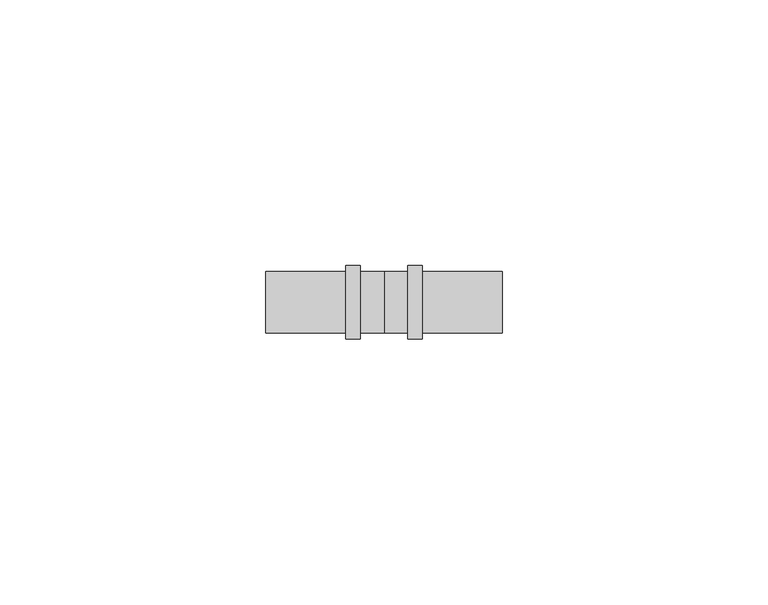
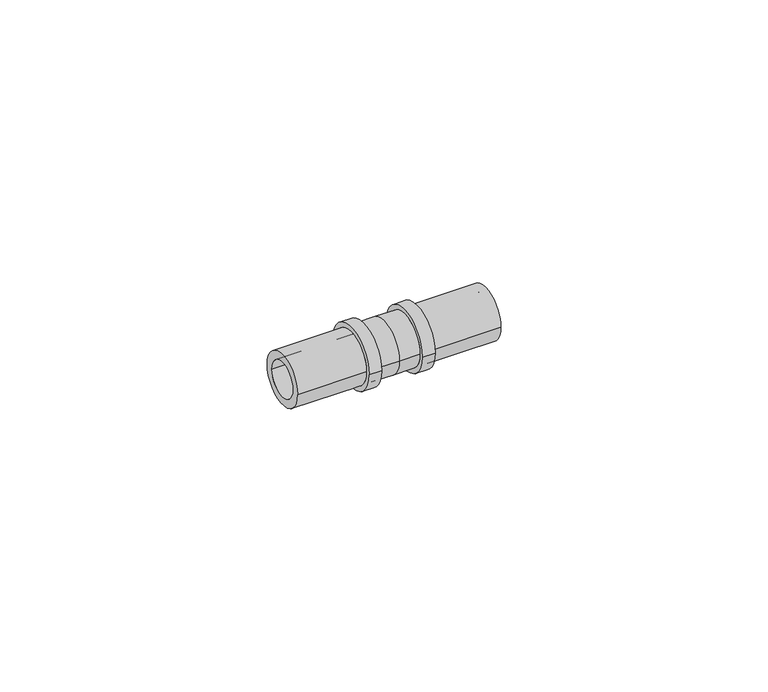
"""IFC4 building model written with IfcOpenShell, lengths in millimetres: pipe fitting geometry, FASTLOC_Coupling equal LX : FSL C LX PL."""

from ifc_helpers import new_model, si_unit, frame, origin, place, context, project, spatial, polyline, circle_curve, source, transform, mapped, element, save
from ifc_brep_helpers import plane_surface, cylinder_surface, revolved_surface, advanced_brep


def pipe_fitting_82e31f29(model_context):
    return source(origin(), model_context, "Body", "AdvancedBrep", [
        advanced_brep(
        [(7.2, 6.9, 0.0), (7.2, -6.9, 0.0), (4.5, -6.9, 0.0), (4.5, 6.9, 0.0), (22.2, 5.8, 0.0), (22.2, -5.8, 0.0), (7.2, -5.8, 0.0), (7.2, 5.8, 0.0), (-22.2, 3.95, 0.0), (-22.2, -3.95, 0.0), (22.2, -3.95, 0.0), (22.2, 3.95, 0.0), (-7.2, 5.8, 0.0), (-7.2, -5.8, 0.0), (-22.2, -5.8, 0.0), (-22.2, 5.8, 0.0), (-4.5, 6.9, 0.0), (-4.5, -6.9, 0.0), (-7.2, -6.9, 0.0), (-7.2, 6.9, 0.0), (0.0, 5.8, 0.0), (0.0, -5.8, 0.0), (-4.5, -5.8, 0.0), (-4.5, 5.8, 0.0), (4.5, 5.8, 0.0), (4.5, -5.8, 0.0)],
        [
            (0, 1, circle_curve(frame((7.2, 0.0, 0.0), z_axis=(-1.0, 0.0, 0.0), x_axis=(0.0, -1.0, 0.0)), 6.9)),
            (1, 2),
            (2, 3, circle_curve(frame((4.5, 0.0, 0.0), z_axis=(1.0, 0.0, 0.0), x_axis=(0.0, -1.0, 0.0)), 6.9)),
            (3, 0),
            (4, 5, circle_curve(frame((22.2, 0.0, 0.0), z_axis=(-1.0, 0.0, 0.0), x_axis=(0.0, -1.0, 0.0)), 5.8)),
            (5, 6),
            (6, 7, circle_curve(frame((7.2, 0.0, 0.0), z_axis=(1.0, 0.0, 0.0), x_axis=(0.0, -1.0, 0.0)), 5.8)),
            (7, 4),
            (8, 9, circle_curve(frame((-22.2, 0.0, 0.0), z_axis=(-1.0, 0.0, 0.0), x_axis=(0.0, -1.0, 0.0)), 3.95)),
            (9, 10),
            (10, 11, circle_curve(frame((22.2, 0.0, 0.0), z_axis=(1.0, 0.0, 0.0), x_axis=(0.0, -1.0, 0.0)), 3.95)),
            (11, 8),
            (12, 13, circle_curve(frame((-7.2, 0.0, 0.0), z_axis=(-1.0, 0.0, 0.0), x_axis=(0.0, -1.0, 0.0)), 5.8)),
            (13, 14),
            (14, 15, circle_curve(frame((-22.2, 0.0, 0.0), z_axis=(1.0, 0.0, 0.0), x_axis=(0.0, -1.0, 0.0)), 5.8)),
            (15, 12),
            (16, 17, circle_curve(frame((-4.5, 0.0, 0.0), z_axis=(-1.0, 0.0, 0.0), x_axis=(0.0, -1.0, 0.0)), 6.9)),
            (17, 18),
            (18, 19, circle_curve(frame((-7.2, 0.0, 0.0), z_axis=(1.0, 0.0, 0.0), x_axis=(0.0, -1.0, 0.0)), 6.9)),
            (19, 16),
            (20, 21, circle_curve(frame((0.0, 0.0, 0.0), z_axis=(-1.0, 0.0, 0.0), x_axis=(0.0, -1.0, 0.0)), 5.8)),
            (21, 22),
            (22, 23, circle_curve(frame((-4.5, 0.0, 0.0), z_axis=(1.0, 0.0, 0.0), x_axis=(0.0, -1.0, 0.0)), 5.8)),
            (23, 20),
            (24, 25, circle_curve(frame((4.5, 0.0, 0.0), z_axis=(-1.0, 0.0, 0.0), x_axis=(0.0, -1.0, 0.0)), 5.8)),
            (25, 21),
            (20, 24),
            (1, 0, circle_curve(frame((7.2, 0.0, 0.0), z_axis=(-1.0, 0.0, 0.0), x_axis=(0.0, 1.0, 0.0)), 6.9)),
            (3, 2, circle_curve(frame((4.5, 0.0, 0.0), z_axis=(1.0, 0.0, 0.0), x_axis=(0.0, 1.0, 0.0)), 6.9)),
            (6, 7, circle_curve(frame((7.2, 0.0, 0.0), z_axis=(-1.0, 0.0, 0.0), x_axis=(0.0, 1.0, 0.0)), 5.8)),
            (5, 4, circle_curve(frame((22.2, 0.0, 0.0), z_axis=(-1.0, 0.0, 0.0), x_axis=(0.0, 1.0, 0.0)), 5.8)),
            (10, 11, circle_curve(frame((22.2, 0.0, 0.0), z_axis=(-1.0, 0.0, 0.0), x_axis=(0.0, 1.0, 0.0)), 3.95)),
            (9, 8, circle_curve(frame((-22.2, 0.0, 0.0), z_axis=(-1.0, 0.0, 0.0), x_axis=(0.0, 1.0, 0.0)), 3.95)),
            (14, 15, circle_curve(frame((-22.2, 0.0, 0.0), z_axis=(-1.0, 0.0, 0.0), x_axis=(0.0, 1.0, 0.0)), 5.8)),
            (13, 12, circle_curve(frame((-7.2, 0.0, 0.0), z_axis=(-1.0, 0.0, 0.0), x_axis=(0.0, 1.0, 0.0)), 5.8)),
            (18, 19, circle_curve(frame((-7.2, 0.0, 0.0), z_axis=(-1.0, 0.0, 0.0), x_axis=(0.0, 1.0, 0.0)), 6.9)),
            (17, 16, circle_curve(frame((-4.5, 0.0, 0.0), z_axis=(-1.0, 0.0, 0.0), x_axis=(0.0, 1.0, 0.0)), 6.9)),
            (22, 23, circle_curve(frame((-4.5, 0.0, 0.0), z_axis=(-1.0, 0.0, 0.0), x_axis=(0.0, 1.0, 0.0)), 5.8)),
            (21, 20, circle_curve(frame((0.0, 0.0, 0.0), z_axis=(-1.0, 0.0, 0.0), x_axis=(0.0, 1.0, 0.0)), 5.8)),
            (25, 24, circle_curve(frame((4.5, 0.0, 0.0), z_axis=(-1.0, 0.0, 0.0), x_axis=(0.0, 1.0, 0.0)), 5.8)),
        ],
        [
            cylinder_surface(frame((0.0, 0.0, 0.0), z_axis=(1.0, 0.0, 0.0), x_axis=(0.0, -1.0, 0.0)), 6.9),
            cylinder_surface(frame((0.0, 0.0, 0.0), z_axis=(1.0, 0.0, 0.0), x_axis=(0.0, -1.0, 0.0)), 5.8),
            revolved_surface(polyline([(22.2, -3.95, 0.0), (-22.2, -3.95, 0.0)]), (0.0, 0.0, 0.0), (1.0, 0.0, 0.0)),
            cylinder_surface(frame((0.0, 0.0, 0.0), z_axis=(1.0, 0.0, 0.0), x_axis=(0.0, 1.0, 0.0)), 6.9),
            plane_surface(frame((7.2, 0.0, 0.0), z_axis=(1.0, 0.0, 0.0), x_axis=(0.0, 1.0, 0.0))),
            cylinder_surface(frame((0.0, 0.0, 0.0), z_axis=(1.0, 0.0, 0.0), x_axis=(0.0, 1.0, 0.0)), 5.8),
            plane_surface(frame((22.2, 0.0, 0.0), z_axis=(1.0, 0.0, 0.0), x_axis=(0.0, 1.0, 0.0))),
            revolved_surface(polyline([(22.2, 3.95, 0.0), (-22.2, 3.95, 0.0)]), (0.0, 0.0, 0.0), (1.0, 0.0, 0.0)),
            plane_surface(frame((-22.2, 0.0, 0.0), z_axis=(-1.0, 0.0, 0.0), x_axis=(0.0, 1.0, 0.0))),
            plane_surface(frame((-7.2, 0.0, 0.0), z_axis=(-1.0, 0.0, 0.0), x_axis=(0.0, 1.0, 0.0))),
            plane_surface(frame((-4.5, 0.0, 0.0), z_axis=(1.0, 0.0, 0.0), x_axis=(0.0, 1.0, 0.0))),
            plane_surface(frame((4.5, 0.0, 0.0), z_axis=(-1.0, 0.0, 0.0), x_axis=(0.0, 1.0, 0.0))),
        ],
        [
            (0, [[1, 2, 3, 4]]),
            (1, [[5, 6, 7, 8]]),
            (2, [[9, 10, 11, 12]]),
            (1, [[13, 14, 15, 16]]),
            (0, [[17, 18, 19, 20]]),
            (1, [[21, 22, 23, 24]]),
            (1, [[25, 26, -21, 27]]),
            (3, [[28, -4, 29, -2]]),
            (4, [[-28, -1], [30, -7]]),
            (5, [[31, -8, -30, -6]]),
            (6, [[-31, -5], [32, -11]]),
            (7, [[33, -12, -32, -10]]),
            (8, [[34, -15], [-33, -9]]),
            (5, [[35, -16, -34, -14]]),
            (9, [[36, -19], [-35, -13]]),
            (3, [[37, -20, -36, -18]]),
            (10, [[-37, -17], [38, -23]]),
            (5, [[39, -24, -38, -22]]),
            (5, [[40, -27, -39, -26]]),
            (11, [[-29, -3], [-40, -25]]),
        ],
    ),
    ])


if __name__ == "__main__":
    model = new_model("IFC4")
    model_context = context("Model", 3, world=origin())
    ifc_project = project(units=[si_unit("LENGTHUNIT", "METRE", prefix="MILLI")], contexts=[model_context])
    site = spatial("IfcSite", under=ifc_project)
    building = spatial("IfcBuilding", under=site)
    placement = place(None, origin())
    pipe_fitting_shape = pipe_fitting_82e31f29(model_context)
    element("IfcPipeFitting", 1, ObjectType="FASTLOC_Coupling equal LX : FSL C LX PL", at=placement, inside=building, context=model_context, shape_type="MappedRepresentation", body=[
        mapped(pipe_fitting_shape, transform((0.0, 0.0, 0.0), x_axis=(1.0, 0.0, 0.0), y_axis=(0.0, 1.0, 0.0), z_axis=(0.0, 0.0, 1.0))),
    ])
    save(model, "model.ifc")
